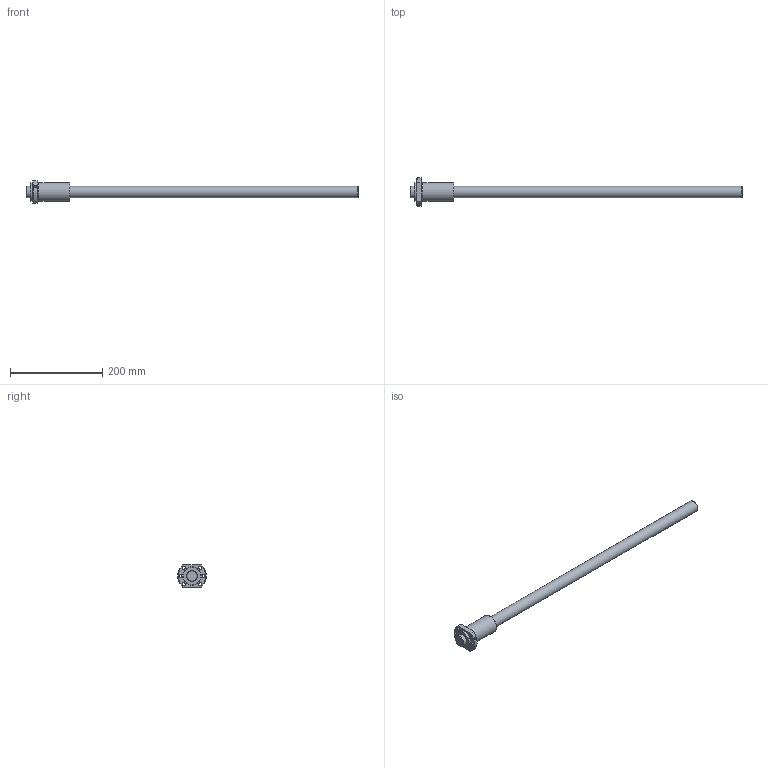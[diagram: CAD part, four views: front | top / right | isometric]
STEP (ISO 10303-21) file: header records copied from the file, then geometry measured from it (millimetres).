
FILE_DESCRIPTION(/* description */ ('STEP AP214'),/* implementation_level */ '2;1');
FILE_NAME(/* name */ 'EPB2510-4RRG0+720LC0(615G000)_rev',/* time_stamp */ '2023-08-03T13:26:18+02:00',/* author */ ('License CC BY-ND 4.0'),/* organization */ ('CADENAS'),/* preprocessor_version */ 'ST-DEVELOPER v19.3',/* originating_system */ 'PARTsolutions',/* authorisation */ ' ');
FILE_SCHEMA (('AUTOMOTIVE_DESIGN {1 0 10303 214 3 1 1}'));
Length unit declared in the file: millimetre
Products named in the file (3): EPB2510-4RRG0+720LC0(615G000)_rev; EPB 2510-4RR Nut1; EPB 2510-46150 Shaft1
Assembly tree (2 placements, depth 2):
  EPB2510-4RRG0+720LC0(615G000)_rev
    EPB 2510-4RR Nut1
    EPB 2510-46150 Shaft1
Bounding box: 720 x 61.8 x 48 mm (x, y, z)
Volume: 429252.2 mm3; surface area: 80809.9 mm2
Topology: 2 solids, 2 shells, 32 faces, 72 edges, 47 vertices
Faces by surface type: cylinder 14, cone 9, plane 9
Full cylindrical faces by diameter (mm): 4.917 x1, 6.6 x6, 25 x2, 37.6 x1, 40 x2
Entity records: 935 total; most frequent: CARTESIAN_POINT 177, DIRECTION 148, ORIENTED_EDGE 106, AXIS2_PLACEMENT_3D 70, EDGE_LOOP 68, FACE_BOUND 68, EDGE_CURVE 53, VERTEX_POINT 45
